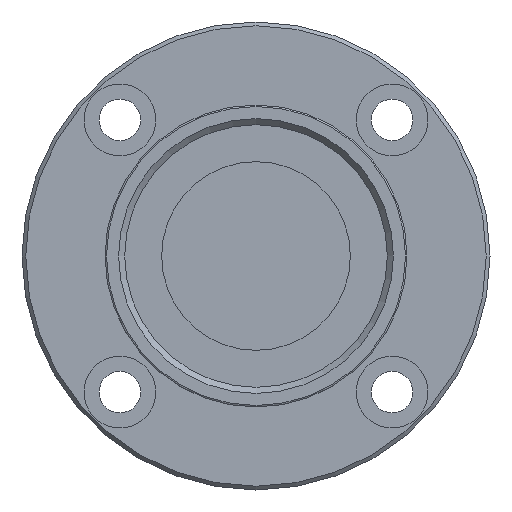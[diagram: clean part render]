
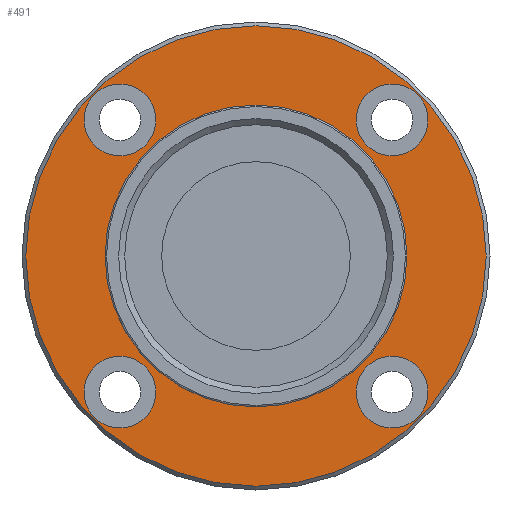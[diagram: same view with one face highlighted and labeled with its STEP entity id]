
A CAD part, front view. The second image highlights one B-rep face of the part: STEP entity #491.
In plain terms, the highlighted planar face has unit normal (0, -1, 0).
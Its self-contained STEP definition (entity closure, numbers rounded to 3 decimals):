
#101=CARTESIAN_POINT('',(-13.281,-56.,-18.031));
#102=VERTEX_POINT('',#101);
#103=CARTESIAN_POINT('',(-18.031,-56.,-18.031));
#104=DIRECTION('',(0.0,1.0,0.0));
#105=DIRECTION('',(1.0,0.0,0.0));
#106=AXIS2_PLACEMENT_3D('',#103,#104,#105);
#107=CIRCLE('',#106,4.75);
#108=EDGE_CURVE('',#102,#102,#107,.T.);
#169=CARTESIAN_POINT('',(22.781,-56.,-18.031));
#170=VERTEX_POINT('',#169);
#171=CARTESIAN_POINT('',(18.031,-56.,-18.031));
#172=DIRECTION('',(0.0,1.0,0.0));
#173=DIRECTION('',(1.0,0.0,0.0));
#174=AXIS2_PLACEMENT_3D('',#171,#172,#173);
#175=CIRCLE('',#174,4.75);
#176=EDGE_CURVE('',#170,#170,#175,.T.);
#237=CARTESIAN_POINT('',(22.781,-56.,18.031));
#238=VERTEX_POINT('',#237);
#239=CARTESIAN_POINT('',(18.031,-56.,18.031));
#240=DIRECTION('',(0.0,1.0,0.0));
#241=DIRECTION('',(1.0,0.0,0.0));
#242=AXIS2_PLACEMENT_3D('',#239,#240,#241);
#243=CIRCLE('',#242,4.75);
#244=EDGE_CURVE('',#238,#238,#243,.T.);
#305=CARTESIAN_POINT('',(-13.281,-56.,18.031));
#306=VERTEX_POINT('',#305);
#307=CARTESIAN_POINT('',(-18.031,-56.,18.031));
#308=DIRECTION('',(0.0,1.0,0.0));
#309=DIRECTION('',(1.0,0.0,0.0));
#310=AXIS2_PLACEMENT_3D('',#307,#308,#309);
#311=CIRCLE('',#310,4.75);
#312=EDGE_CURVE('',#306,#306,#311,.T.);
#345=CARTESIAN_POINT('',(20.,-56.,0.0));
#346=VERTEX_POINT('',#345);
#347=CARTESIAN_POINT('',(0.0,-56.,0.0));
#348=DIRECTION('',(0.0,-1.0,0.0));
#349=DIRECTION('',(1.0,0.0,0.0));
#350=AXIS2_PLACEMENT_3D('',#347,#348,#349);
#351=CIRCLE('',#350,20.);
#352=EDGE_CURVE('',#346,#346,#351,.T.);
#453=CARTESIAN_POINT('',(30.5,-56.,0.0));
#454=VERTEX_POINT('',#453);
#455=CARTESIAN_POINT('',(0.0,-56.,0.0));
#456=DIRECTION('',(0.0,-1.0,0.0));
#457=DIRECTION('',(1.0,0.0,0.0));
#458=AXIS2_PLACEMENT_3D('',#455,#456,#457);
#459=CIRCLE('',#458,30.5);
#460=EDGE_CURVE('',#454,#454,#459,.T.);
#468=CARTESIAN_POINT('',(25.25,-56.,0.0));
#469=DIRECTION('',(0.0,-1.0,0.0));
#470=DIRECTION('',(0.0,0.0,-1.0));
#471=AXIS2_PLACEMENT_3D('',#468,#469,#470);
#472=PLANE('',#471);
#473=ORIENTED_EDGE('',*,*,#460,.T.);
#474=EDGE_LOOP('',(#473));
#475=FACE_OUTER_BOUND('',#474,.T.);
#476=ORIENTED_EDGE('',*,*,#108,.T.);
#477=EDGE_LOOP('',(#476));
#478=FACE_BOUND('',#477,.T.);
#479=ORIENTED_EDGE('',*,*,#176,.T.);
#480=EDGE_LOOP('',(#479));
#481=FACE_BOUND('',#480,.T.);
#482=ORIENTED_EDGE('',*,*,#244,.T.);
#483=EDGE_LOOP('',(#482));
#484=FACE_BOUND('',#483,.T.);
#485=ORIENTED_EDGE('',*,*,#312,.T.);
#486=EDGE_LOOP('',(#485));
#487=FACE_BOUND('',#486,.T.);
#488=ORIENTED_EDGE('',*,*,#352,.F.);
#489=EDGE_LOOP('',(#488));
#490=FACE_BOUND('',#489,.T.);
#491=ADVANCED_FACE('',(#475,#478,#481,#484,#487,#490),#472,.T.);
